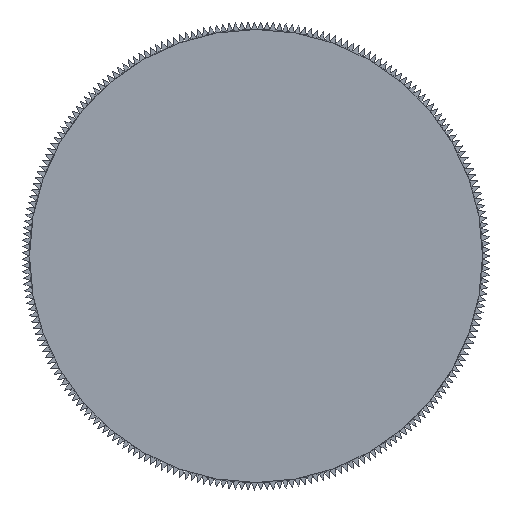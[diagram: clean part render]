
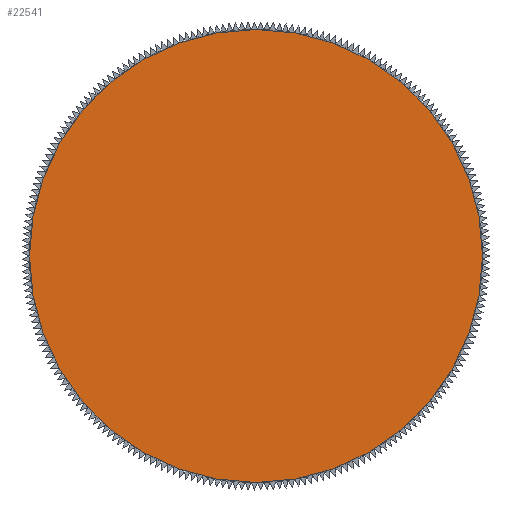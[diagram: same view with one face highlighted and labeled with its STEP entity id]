
A CAD part, left-side view. The second image highlights one B-rep face of the part: STEP entity #22541.
In plain terms, the highlighted planar face has unit normal (-1, 0, 0).
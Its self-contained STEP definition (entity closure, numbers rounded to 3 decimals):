
#1493 = DIRECTION ( 'NONE',  ( -1., 0., 0. ) ) ;
#5816 = AXIS2_PLACEMENT_3D ( 'NONE', #15729, #1493, #7924 ) ;
#7449 = CARTESIAN_POINT ( 'NONE',  ( 0., 0., 3. ) ) ;
#7457 = EDGE_CURVE ( 'NONE', #24429, #24429, #16745, .T. ) ;
#7583 = PLANE ( 'NONE',  #23678 ) ;
#7924 = DIRECTION ( 'NONE',  ( 0., 0., 1. ) ) ;
#8252 = EDGE_LOOP ( 'NONE', ( #14636 ) ) ;
#14287 = DIRECTION ( 'NONE',  ( 1., 0., 0. ) ) ;
#14636 = ORIENTED_EDGE ( 'NONE', *, *, #7457, .T. ) ;
#15729 = CARTESIAN_POINT ( 'NONE',  ( 0., 0., 0. ) ) ;
#15800 = DIRECTION ( 'NONE',  ( 0., 0., -1. ) ) ;
#16745 = CIRCLE ( 'NONE', #5816, 3. ) ;
#22541 = ADVANCED_FACE ( 'NONE', ( #26759 ), #7583, .F. ) ;
#23678 = AXIS2_PLACEMENT_3D ( 'NONE', #24426, #14287, #15800 ) ;
#24426 = CARTESIAN_POINT ( 'NONE',  ( 0., 0., 0. ) ) ;
#24429 = VERTEX_POINT ( 'NONE', #7449 ) ;
#26759 = FACE_OUTER_BOUND ( 'NONE', #8252, .T. ) ;
